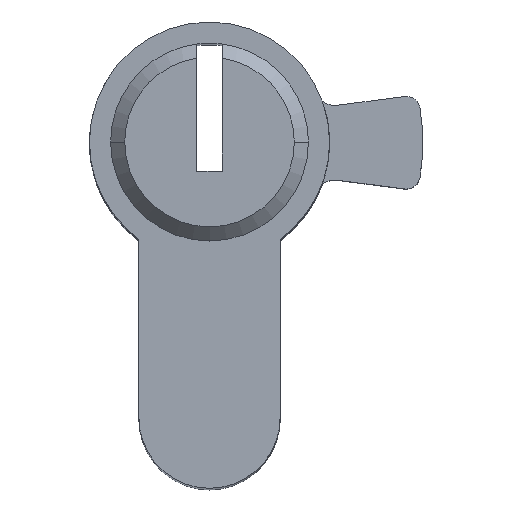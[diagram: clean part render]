
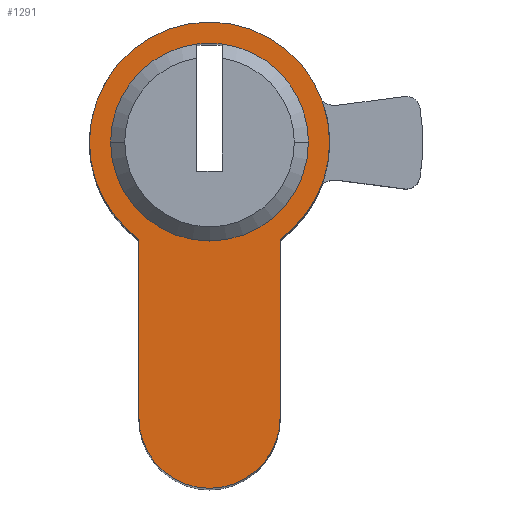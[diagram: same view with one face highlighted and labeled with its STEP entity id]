
A CAD part, top view. The second image highlights one B-rep face of the part: STEP entity #1291.
In plain terms, the highlighted planar face has unit normal (0, 0, 1).
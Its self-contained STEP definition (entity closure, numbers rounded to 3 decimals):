
#19 = ORIENTED_EDGE ( 'NONE', *, *, #370, .F. ) ;
#47 = LINE ( 'NONE', #345, #1419 ) ;
#52 = CARTESIAN_POINT ( 'NONE',  ( 5., -19.5, 30. ) ) ;
#54 = EDGE_CURVE ( 'NONE', #211, #186, #1079, .T. ) ;
#136 = CIRCLE ( 'NONE', #1134, 8.5 ) ;
#155 = DIRECTION ( 'NONE',  ( 1., 0., 0. ) ) ;
#186 = VERTEX_POINT ( 'NONE', #409 ) ;
#193 = CIRCLE ( 'NONE', #425, 7. ) ;
#199 = AXIS2_PLACEMENT_3D ( 'NONE', #495, #753, #879 ) ;
#205 = EDGE_CURVE ( 'NONE', #579, #1558, #227, .T. ) ;
#211 = VERTEX_POINT ( 'NONE', #1635 ) ;
#226 = AXIS2_PLACEMENT_3D ( 'NONE', #437, #544, #1484 ) ;
#227 = CIRCLE ( 'NONE', #1132, 5. ) ;
#248 = FACE_BOUND ( 'NONE', #1491, .T. ) ;
#274 = ORIENTED_EDGE ( 'NONE', *, *, #1397, .T. ) ;
#310 = CARTESIAN_POINT ( 'NONE',  ( 0., 0., 30. ) ) ;
#312 = CIRCLE ( 'NONE', #226, 8.5 ) ;
#313 = AXIS2_PLACEMENT_3D ( 'NONE', #1147, #982, #1009 ) ;
#345 = CARTESIAN_POINT ( 'NONE',  ( 5., -19.5, 30. ) ) ;
#370 = EDGE_CURVE ( 'NONE', #560, #1153, #677, .T. ) ;
#380 = EDGE_CURVE ( 'NONE', #1521, #560, #193, .T. ) ;
#391 = DIRECTION ( 'NONE',  ( 1., 0., 0. ) ) ;
#396 = ORIENTED_EDGE ( 'NONE', *, *, #1129, .F. ) ;
#409 = CARTESIAN_POINT ( 'NONE',  ( -5., -6.874, 30. ) ) ;
#425 = AXIS2_PLACEMENT_3D ( 'NONE', #1002, #1543, #1261 ) ;
#428 = CARTESIAN_POINT ( 'NONE',  ( -0.9, 6.942, 30. ) ) ;
#437 = CARTESIAN_POINT ( 'NONE',  ( 0., 0., 30. ) ) ;
#495 = CARTESIAN_POINT ( 'NONE',  ( 0., 0., 30. ) ) ;
#510 = DIRECTION ( 'NONE',  ( 0., -1., 0. ) ) ;
#533 = CARTESIAN_POINT ( 'NONE',  ( 0., -19.5, 30. ) ) ;
#540 = CARTESIAN_POINT ( 'NONE',  ( -5., -19.5, 30. ) ) ;
#544 = DIRECTION ( 'NONE',  ( 0., 0., 1. ) ) ;
#547 = DIRECTION ( 'NONE',  ( 0., 0., 1. ) ) ;
#560 = VERTEX_POINT ( 'NONE', #1303 ) ;
#579 = VERTEX_POINT ( 'NONE', #540 ) ;
#595 = CIRCLE ( 'NONE', #199, 7. ) ;
#626 = AXIS2_PLACEMENT_3D ( 'NONE', #1174, #640, #391 ) ;
#640 = DIRECTION ( 'NONE',  ( 0., 0., 1. ) ) ;
#672 = EDGE_CURVE ( 'NONE', #1716, #211, #136, .T. ) ;
#677 = CIRCLE ( 'NONE', #313, 7. ) ;
#708 = CIRCLE ( 'NONE', #1699, 7. ) ;
#721 = CARTESIAN_POINT ( 'NONE',  ( 0.9, 6.942, 30. ) ) ;
#753 = DIRECTION ( 'NONE',  ( 0., 0., 1. ) ) ;
#767 = ORIENTED_EDGE ( 'NONE', *, *, #672, .T. ) ;
#860 = DIRECTION ( 'NONE',  ( 0., 1., 0. ) ) ;
#879 = DIRECTION ( 'NONE',  ( 1., 0., 0. ) ) ;
#905 = DIRECTION ( 'NONE',  ( 0., 0., 1. ) ) ;
#952 = ORIENTED_EDGE ( 'NONE', *, *, #205, .T. ) ;
#955 = EDGE_CURVE ( 'NONE', #1153, #1395, #708, .T. ) ;
#960 = ORIENTED_EDGE ( 'NONE', *, *, #1690, .T. ) ;
#982 = DIRECTION ( 'NONE',  ( 0., 0., 1. ) ) ;
#1002 = CARTESIAN_POINT ( 'NONE',  ( 0., 0., 30. ) ) ;
#1009 = DIRECTION ( 'NONE',  ( 1., 0., 0. ) ) ;
#1059 = CARTESIAN_POINT ( 'NONE',  ( -5., -6.874, 30. ) ) ;
#1067 = LINE ( 'NONE', #1059, #1617 ) ;
#1079 = CIRCLE ( 'NONE', #1533, 8.5 ) ;
#1083 = ORIENTED_EDGE ( 'NONE', *, *, #1565, .T. ) ;
#1112 = CARTESIAN_POINT ( 'NONE',  ( 0., 0., 30. ) ) ;
#1122 = DIRECTION ( 'NONE',  ( 1., 0., 0. ) ) ;
#1129 = EDGE_CURVE ( 'NONE', #1395, #1521, #595, .T. ) ;
#1132 = AXIS2_PLACEMENT_3D ( 'NONE', #533, #1647, #155 ) ;
#1134 = AXIS2_PLACEMENT_3D ( 'NONE', #1112, #1350, #1645 ) ;
#1147 = CARTESIAN_POINT ( 'NONE',  ( 0., 0., 30. ) ) ;
#1153 = VERTEX_POINT ( 'NONE', #721 ) ;
#1174 = CARTESIAN_POINT ( 'NONE',  ( 0., 0., 30. ) ) ;
#1190 = FACE_OUTER_BOUND ( 'NONE', #1723, .T. ) ;
#1261 = DIRECTION ( 'NONE',  ( 1., 0., 0. ) ) ;
#1265 = ORIENTED_EDGE ( 'NONE', *, *, #955, .F. ) ;
#1276 = CARTESIAN_POINT ( 'NONE',  ( -7., 0., 30. ) ) ;
#1289 = ORIENTED_EDGE ( 'NONE', *, *, #380, .F. ) ;
#1291 = ADVANCED_FACE ( 'NONE', ( #248, #1190 ), #1327, .T. ) ;
#1303 = CARTESIAN_POINT ( 'NONE',  ( 7., 0., 30. ) ) ;
#1327 = PLANE ( 'NONE',  #626 ) ;
#1350 = DIRECTION ( 'NONE',  ( 0., 0., 1. ) ) ;
#1395 = VERTEX_POINT ( 'NONE', #428 ) ;
#1397 = EDGE_CURVE ( 'NONE', #1468, #1716, #312, .T. ) ;
#1419 = VECTOR ( 'NONE', #860, 1000. ) ;
#1468 = VERTEX_POINT ( 'NONE', #1629 ) ;
#1484 = DIRECTION ( 'NONE',  ( 1., 0., 0. ) ) ;
#1491 = EDGE_LOOP ( 'NONE', ( #1265, #19, #1289, #396 ) ) ;
#1504 = ORIENTED_EDGE ( 'NONE', *, *, #54, .T. ) ;
#1521 = VERTEX_POINT ( 'NONE', #1276 ) ;
#1533 = AXIS2_PLACEMENT_3D ( 'NONE', #1598, #905, #1728 ) ;
#1543 = DIRECTION ( 'NONE',  ( 0., 0., 1. ) ) ;
#1558 = VERTEX_POINT ( 'NONE', #52 ) ;
#1565 = EDGE_CURVE ( 'NONE', #1558, #1468, #47, .T. ) ;
#1588 = CARTESIAN_POINT ( 'NONE',  ( 8.5, 0., 30. ) ) ;
#1598 = CARTESIAN_POINT ( 'NONE',  ( 0., 0., 30. ) ) ;
#1617 = VECTOR ( 'NONE', #510, 1000. ) ;
#1629 = CARTESIAN_POINT ( 'NONE',  ( 5., -6.874, 30. ) ) ;
#1635 = CARTESIAN_POINT ( 'NONE',  ( -8.5, 0., 30. ) ) ;
#1645 = DIRECTION ( 'NONE',  ( 1., 0., 0. ) ) ;
#1647 = DIRECTION ( 'NONE',  ( 0., 0., 1. ) ) ;
#1690 = EDGE_CURVE ( 'NONE', #186, #579, #1067, .T. ) ;
#1699 = AXIS2_PLACEMENT_3D ( 'NONE', #310, #547, #1122 ) ;
#1716 = VERTEX_POINT ( 'NONE', #1588 ) ;
#1723 = EDGE_LOOP ( 'NONE', ( #274, #767, #1504, #960, #952, #1083 ) ) ;
#1728 = DIRECTION ( 'NONE',  ( 1., 0., 0. ) ) ;
